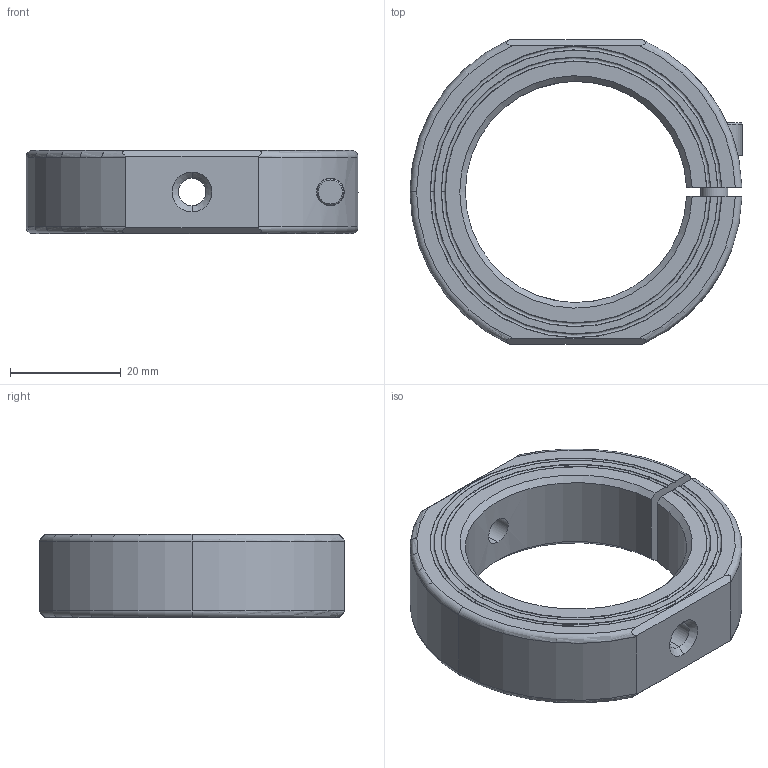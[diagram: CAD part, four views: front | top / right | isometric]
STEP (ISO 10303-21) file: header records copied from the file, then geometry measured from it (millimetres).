
FILE_DESCRIPTION (( 'STEP AP214' ), '1' );
FILE_NAME ('Ruland_OF-MCL-40-F.step', '2018-02-08T04:16:39', ( '' ), ( '' ), 'SwSTEP 2.0', 'SolidWorks 2018', '' );
FILE_SCHEMA (( 'AUTOMOTIVE_DESIGN' ));
Length unit declared in the file: millimetre
Products named in the file (3): Metric Socket Head Cap Screws 1_CFM6_18.step; Ruland_OF-MCL-40-F; OX-MCL-XX-XX-C_OF-MCL-40-F-C.step
Assembly tree (2 placements, depth 2):
  Ruland_OF-MCL-40-F
    OX-MCL-XX-XX-C_OF-MCL-40-F-C.step
    Metric Socket Head Cap Screws 1_CFM6_18.step
Bounding box: 59.99 x 55 x 15 mm (x, y, z)
Volume: 20913.5 mm3; surface area: 8867.8 mm2
Topology: 2 solids, 2 shells, 73 faces, 185 edges, 119 vertices
Faces by surface type: plane 23, cylinder 21, cone 17, torus 12
Entity records: 3052 total; most frequent: CARTESIAN_POINT 1127, ORIENTED_EDGE 370, DIRECTION 366, EDGE_CURVE 185, AXIS2_PLACEMENT_3D 148, VERTEX_POINT 119, EDGE_LOOP 84, FACE_OUTER_BOUND 73
